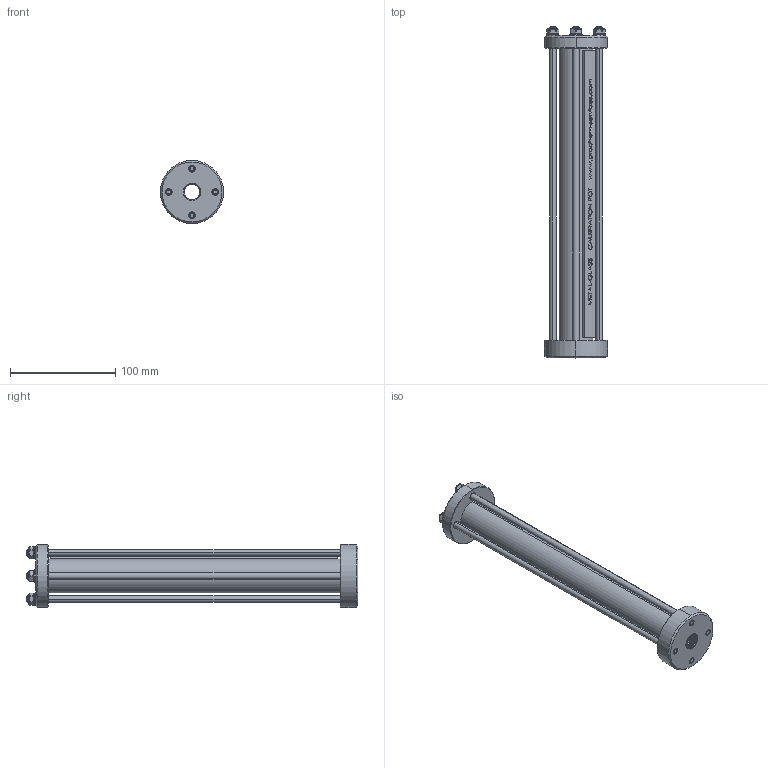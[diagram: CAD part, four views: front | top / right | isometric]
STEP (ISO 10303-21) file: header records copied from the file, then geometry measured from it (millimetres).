
FILE_DESCRIPTION (( 'STEP AP214' ), '1' );
FILE_NAME ('0.125LTR-C-11-34.STEP', '2026-01-12T12:47:32', ( '' ), ( '' ), 'SwSTEP 2.0', 'SolidWorks 2024', '' );
FILE_SCHEMA (( 'AUTOMOTIVE_DESIGN' ));
Length unit declared in the file: millimetre
Products named in the file (1): 0.125LTR-C-11-34
Bounding box: 60 x 316 x 60 mm (x, y, z)
Surface area: 77078.4 mm2 (no closed solid volume)
Topology: 0 solids, 28 shells, 825 faces, 2923 edges, 2030 vertices
Faces by surface type: cylinder 329, bspline 207, plane 201, cone 56, sphere 24, torus 8
Entity records: 70336 total; most frequent: CARTESIAN_POINT 40398, ORIENTED_EDGE 4400, DIRECTION 3337, EDGE_CURVE 2923, VERTEX_POINT 2030, VECTOR 1351, LINE 1351, AXIS2_PLACEMENT_3D 993
